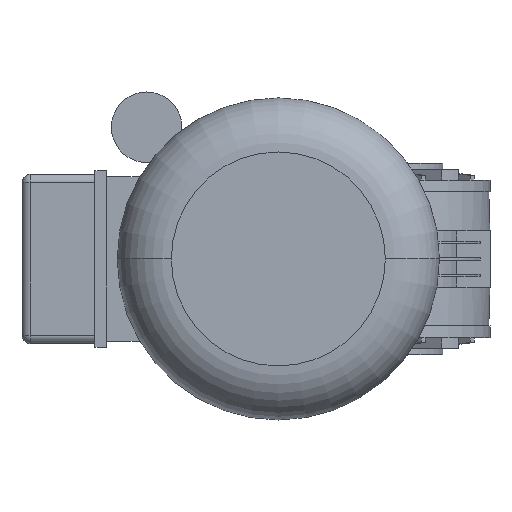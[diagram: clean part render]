
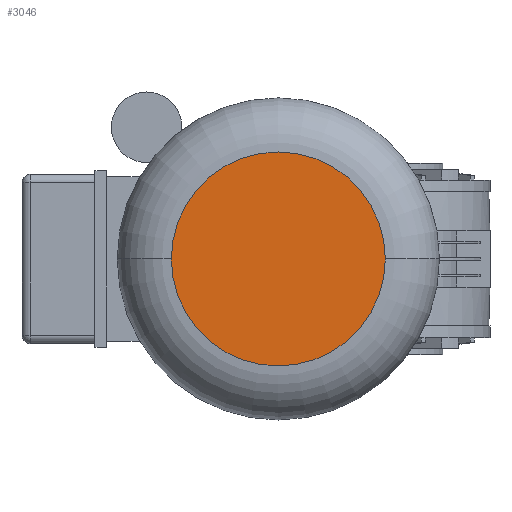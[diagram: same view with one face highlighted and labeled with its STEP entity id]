
A CAD part, left-side view. The second image highlights one B-rep face of the part: STEP entity #3046.
In plain terms, the highlighted planar face has unit normal (-1, 0, 0) as drawn and (0, 0, -1) by its records, which use the part's own axes.
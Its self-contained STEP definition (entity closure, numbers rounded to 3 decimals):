
#1079 = AXIS2_PLACEMENT_3D ( 'NONE', #5706, #10592, #23047 ) ;
#3046 = ADVANCED_FACE ( 'NONE', ( #28311 ), #28609, .T. ) ;
#5706 = CARTESIAN_POINT ( 'NONE',  ( 0., 0., -183. ) ) ;
#6300 = CARTESIAN_POINT ( 'NONE',  ( 0., -45.5, -183. ) ) ;
#9918 = ORIENTED_EDGE ( 'NONE', *, *, #28438, .T. ) ;
#10299 = CARTESIAN_POINT ( 'NONE',  ( 0., 0., -183. ) ) ;
#10392 = DIRECTION ( 'NONE',  ( 0., 1., 0. ) ) ;
#10592 = DIRECTION ( 'NONE',  ( 0., 0., -1. ) ) ;
#13122 = CARTESIAN_POINT ( 'NONE',  ( 0., 45.5, -183. ) ) ;
#13799 = DIRECTION ( 'NONE',  ( 0., 0., -1. ) ) ;
#15732 = AXIS2_PLACEMENT_3D ( 'NONE', #25830, #13799, #15872 ) ;
#15872 = DIRECTION ( 'NONE',  ( -1., 0., 0. ) ) ;
#16343 = CIRCLE ( 'NONE', #1079, 45.5 ) ;
#19282 = EDGE_LOOP ( 'NONE', ( #9918, #24605 ) ) ;
#21635 = EDGE_CURVE ( 'NONE', #27309, #25726, #31411, .T. ) ;
#23047 = DIRECTION ( 'NONE',  ( 0., 1., 0. ) ) ;
#24391 = AXIS2_PLACEMENT_3D ( 'NONE', #10299, #27610, #10392 ) ;
#24605 = ORIENTED_EDGE ( 'NONE', *, *, #21635, .T. ) ;
#25726 = VERTEX_POINT ( 'NONE', #13122 ) ;
#25830 = CARTESIAN_POINT ( 'NONE',  ( 0., 0., -183. ) ) ;
#27309 = VERTEX_POINT ( 'NONE', #6300 ) ;
#27610 = DIRECTION ( 'NONE',  ( 0., 0., -1. ) ) ;
#28311 = FACE_OUTER_BOUND ( 'NONE', #19282, .T. ) ;
#28438 = EDGE_CURVE ( 'NONE', #25726, #27309, #16343, .T. ) ;
#28609 = PLANE ( 'NONE',  #15732 ) ;
#31411 = CIRCLE ( 'NONE', #24391, 45.5 ) ;
